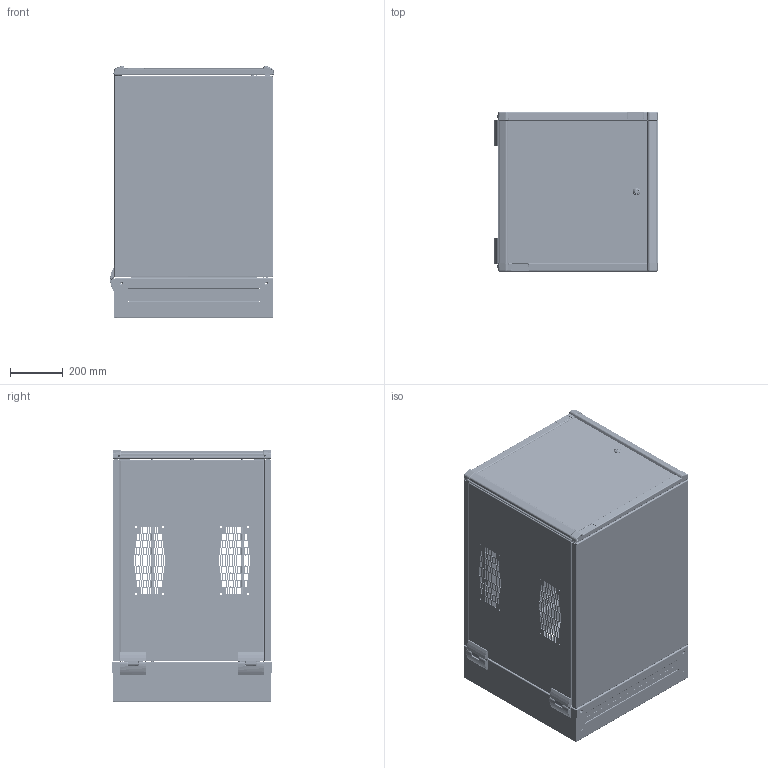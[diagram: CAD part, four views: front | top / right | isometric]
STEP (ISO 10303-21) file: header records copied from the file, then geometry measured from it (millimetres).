
FILE_DESCRIPTION (( 'STEP AP203' ), '1' );
FILE_NAME ('ewmwg242436.STEP', '2018-06-12T15:21:33', ( '' ), ( '' ), 'SwSTEP 2.0', 'SolidWorks 2014', '' );
FILE_SCHEMA (( 'CONFIG_CONTROL_DESIGN' ));
Length unit declared in the file: millimetre
Products named in the file (35): 87931293_87931293; 89066979_WITH STAKE; 89111941_87931309; 87931598; 87937614_Access Plus wdo dr; 87931299_87931299; 89091800; 89111934_87931307; 89111975_default; 87928600; 89066980; 89111948_87931313; 87935075; 89069243; 60127314; 87931289_87931289; 87936875; 87417023; 89113746; 87931287_87931287; 89072121_87931339; 87931295_87931295; ewmwg242436; 87937812; 89066977_AS REAMED; 87935073_87935073; 87931291_87931291; 87540581; 87933969; 87933389_Access Plus wdo dr; 87931285_87931285; 89066978; 89111910_87931311; 87931593; 99414156
Assembly tree (73 placements, depth 4):
  ewmwg242436
    89111948_87931313
      89111910_87931311  x2
      89111941_87931309
      89111934_87931307
    87931295_87931295
      87931289_87931289
      87931287_87931287  x2
      87937812
      87931291_87931291  x4
      87931285_87931285  x2
      87931293_87931293  x2
      87931299_87931299  x2
      87937614_Access Plus wdo dr
        87933389_Access Plus wdo dr
        99414156
      87928600
      89069243  x8
      87417023  x2
    87935073_87935073
    87933969  x2
    87931593  x2
    87931598  x2
    89111975_default  x2
    87935075  x2
    87936875  x4
    89072121_87931339  x2
    89066978  x2
      89066977_AS REAMED
      87540581
    89066980  x2
      89066979_WITH STAKE
      89091800
      87540581
    60127314  x8
    89113746  x2
Bounding box: 619.9 x 602.64 x 952.17 mm (x, y, z)
Volume: 10089532.5 mm3; surface area: 8166305.2 mm2
Topology: 131 solids, 131 shells, 11514 faces, 30054 edges, 18714 vertices
Faces by surface type: plane 4542, cylinder 4388, bspline 1180, torus 582, cone 509, sphere 313
Entity records: 261160 total; most frequent: CARTESIAN_POINT 75510, ORIENTED_EDGE 38664, DIRECTION 37025, EDGE_CURVE 19332, AXIS2_PLACEMENT_3D 13169, VERTEX_POINT 12207, LINE 10687, VECTOR 10687
